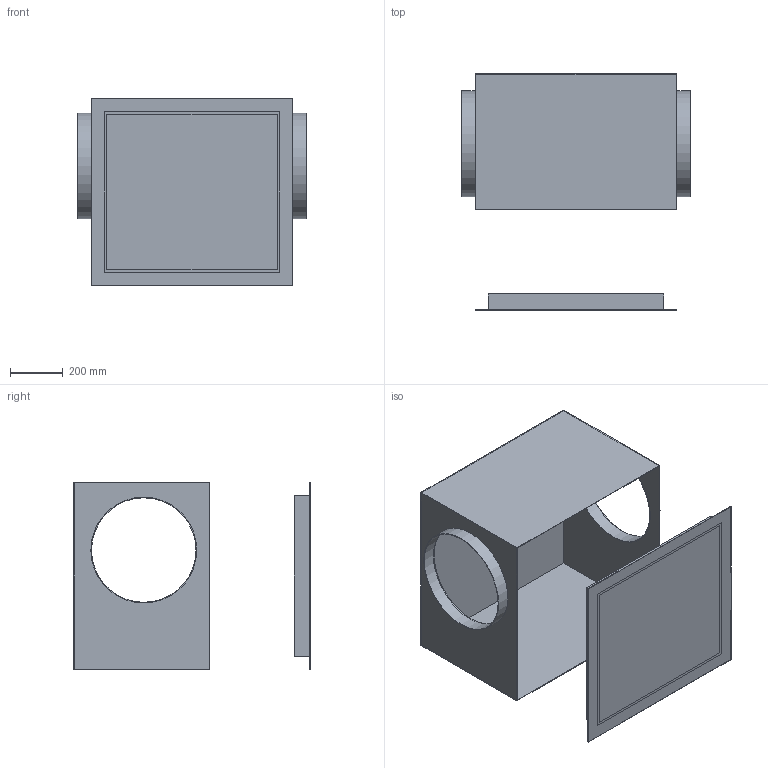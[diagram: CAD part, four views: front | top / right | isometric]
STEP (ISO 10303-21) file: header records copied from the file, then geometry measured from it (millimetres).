
FILE_DESCRIPTION(/* description */ (''),/* implementation_level */ '2;1');
FILE_NAME(/* name */ 'Z:\Output\SB EC 400 A-06140-001.stp',/* time_stamp */ '2017-05-05T17:02:32+02:00',/* author */ ('engineering1'),/* organization */ (''),/* preprocessor_version */ 'ST-DEVELOPER v16.5',/* originating_system */ 'Autodesk Inventor 2017',/* authorisation */ '');
FILE_SCHEMA (('AUTOMOTIVE_DESIGN { 1 0 10303 214 3 1 1 }'));
Length unit declared in the file: millimetre
Products named in the file (1): SB-1
Bounding box: 863 x 894.5 x 708 mm (x, y, z)
Volume: 7618652 mm3; surface area: 5230128.3 mm2
Topology: 2 solids, 2 shells, 33 faces, 72 edges, 48 vertices
Faces by surface type: plane 29, cylinder 4
Full cylindrical faces by diameter (mm): 395 x2, 400 x2
Entity records: 911 total; most frequent: CARTESIAN_POINT 150, DIRECTION 144, ORIENTED_EDGE 136, EDGE_CURVE 68, LINE 60, VECTOR 60, VERTEX_POINT 48, EDGE_LOOP 46
